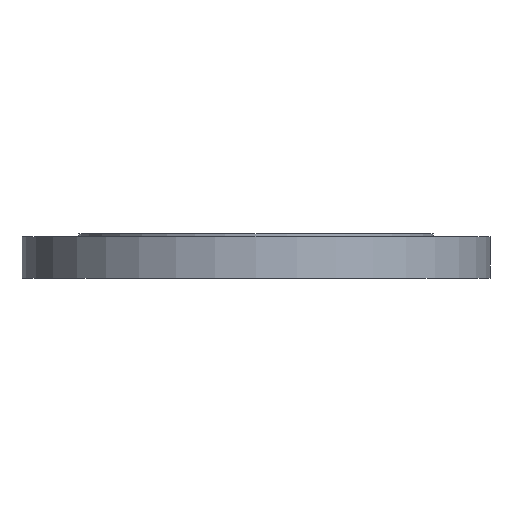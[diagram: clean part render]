
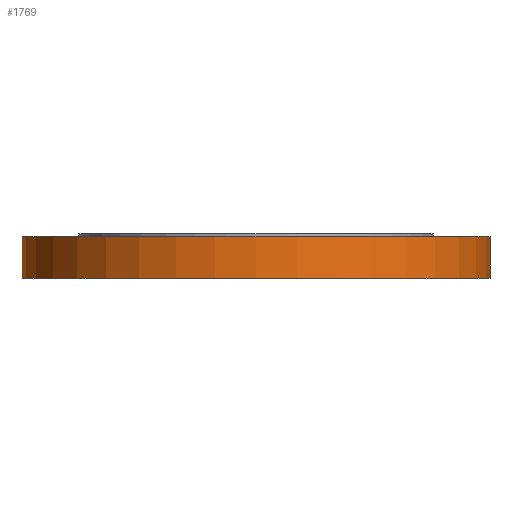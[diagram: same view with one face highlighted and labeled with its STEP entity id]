
A CAD part, front view. The second image highlights one B-rep face of the part: STEP entity #1769.
In plain terms, the highlighted cylindrical face has radius 445 mm (diameter 890 mm), a partial arc.
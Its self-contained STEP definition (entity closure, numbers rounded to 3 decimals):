
#4 = CARTESIAN_POINT ( 'NONE',  ( 445., 0., -84. ) ) ;
#16 = CARTESIAN_POINT ( 'NONE',  ( -445., 0., -5.5 ) ) ;
#17 = DIRECTION ( 'NONE',  ( 1., 0., 0. ) ) ;
#19 = DIRECTION ( 'NONE',  ( 0., 0., 1. ) ) ;
#21 = CARTESIAN_POINT ( 'NONE',  ( 0., 0., -150. ) ) ;
#23 = FACE_OUTER_BOUND ( 'NONE', #1424, .T. ) ;
#41 = CYLINDRICAL_SURFACE ( 'NONE', #1283, 445. ) ;
#70 = DIRECTION ( 'NONE',  ( 0., 0., 1. ) ) ;
#71 = CARTESIAN_POINT ( 'NONE',  ( -445., 0., -150. ) ) ;
#72 = LINE ( 'NONE', #71, #1477 ) ;
#201 = DIRECTION ( 'NONE',  ( -1., 0., 0. ) ) ;
#203 = DIRECTION ( 'NONE',  ( 0., 0., -1. ) ) ;
#204 = CARTESIAN_POINT ( 'NONE',  ( 0., 0., -84. ) ) ;
#299 = CIRCLE ( 'NONE', #307, 445. ) ;
#307 = AXIS2_PLACEMENT_3D ( 'NONE', #204, #203, #201 ) ;
#326 = CIRCLE ( 'NONE', #1691, 445. ) ;
#361 = EDGE_CURVE ( 'NONE', #1148, #1770, #326, .T. ) ;
#533 = CARTESIAN_POINT ( 'NONE',  ( 445., 0., -5.5 ) ) ;
#556 = VECTOR ( 'NONE', #764, 1000. ) ;
#764 = DIRECTION ( 'NONE',  ( 0., 0., 1. ) ) ;
#766 = CARTESIAN_POINT ( 'NONE',  ( 445., 0., -150. ) ) ;
#767 = LINE ( 'NONE', #766, #556 ) ;
#769 = EDGE_CURVE ( 'NONE', #1785, #1148, #767, .T. ) ;
#962 = DIRECTION ( 'NONE',  ( -1., 0., 0. ) ) ;
#964 = DIRECTION ( 'NONE',  ( 0., 0., -1. ) ) ;
#966 = CARTESIAN_POINT ( 'NONE',  ( 0., 0., -5.5 ) ) ;
#1148 = VERTEX_POINT ( 'NONE', #533 ) ;
#1283 = AXIS2_PLACEMENT_3D ( 'NONE', #21, #19, #17 ) ;
#1424 = EDGE_LOOP ( 'NONE', ( #1811, #1809, #1797, #1796 ) ) ;
#1477 = VECTOR ( 'NONE', #70, 1000. ) ;
#1554 = EDGE_CURVE ( 'NONE', #1785, #1801, #299, .T. ) ;
#1691 = AXIS2_PLACEMENT_3D ( 'NONE', #966, #964, #962 ) ;
#1725 = EDGE_CURVE ( 'NONE', #1801, #1770, #72, .T. ) ;
#1753 = CARTESIAN_POINT ( 'NONE',  ( -445., 0., -84. ) ) ;
#1769 = ADVANCED_FACE ( 'NONE', ( #23 ), #41, .T. ) ;
#1770 = VERTEX_POINT ( 'NONE', #16 ) ;
#1785 = VERTEX_POINT ( 'NONE', #4 ) ;
#1796 = ORIENTED_EDGE ( 'NONE', *, *, #361, .T. ) ;
#1797 = ORIENTED_EDGE ( 'NONE', *, *, #769, .T. ) ;
#1801 = VERTEX_POINT ( 'NONE', #1753 ) ;
#1809 = ORIENTED_EDGE ( 'NONE', *, *, #1554, .F. ) ;
#1811 = ORIENTED_EDGE ( 'NONE', *, *, #1725, .F. ) ;
